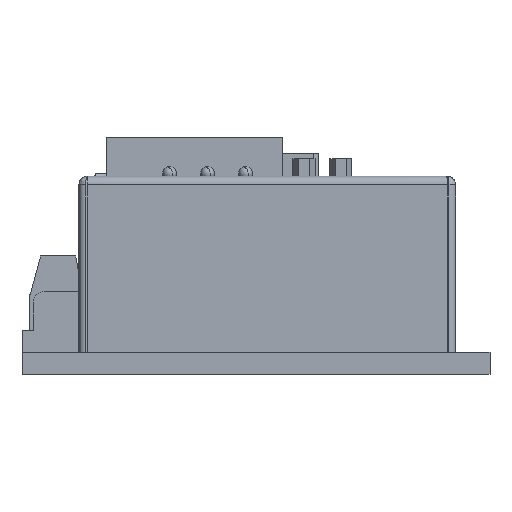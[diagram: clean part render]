
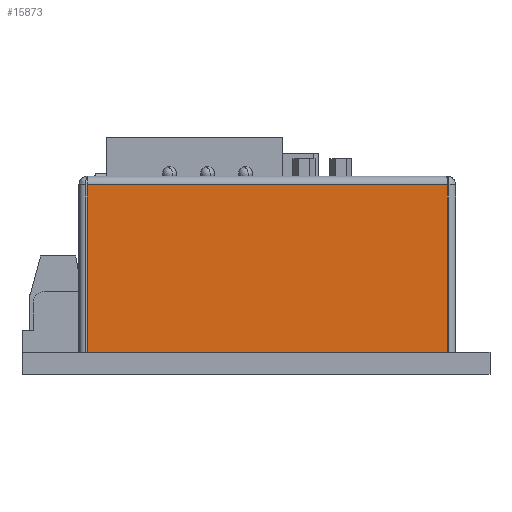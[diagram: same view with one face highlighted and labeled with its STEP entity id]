
A CAD part, front view. The second image highlights one B-rep face of the part: STEP entity #15873.
In plain terms, the highlighted planar face has unit normal (0, -1, 0).
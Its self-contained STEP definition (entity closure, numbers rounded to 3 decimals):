
#217 = PLANE ( 'NONE',  #7623 ) ;
#2004 = DIRECTION ( 'NONE',  ( 0., 0., -1. ) ) ;
#2013 = VECTOR ( 'NONE', #7461, 1000. ) ;
#2486 = CARTESIAN_POINT ( 'NONE',  ( 0., -30.25, -1.6 ) ) ;
#2648 = CARTESIAN_POINT ( 'NONE',  ( -32.693, -30.25, -1.6 ) ) ;
#3048 = VERTEX_POINT ( 'NONE', #20169 ) ;
#3119 = LINE ( 'NONE', #2486, #15707 ) ;
#3680 = CARTESIAN_POINT ( 'NONE',  ( 0., -30.25, 0. ) ) ;
#4807 = EDGE_LOOP ( 'NONE', ( #9589, #17160, #13936, #22775 ) ) ;
#5591 = EDGE_CURVE ( 'NONE', #3048, #9370, #21112, .T. ) ;
#6895 = LINE ( 'NONE', #17614, #20651 ) ;
#7461 = DIRECTION ( 'NONE',  ( 0., 0., 1. ) ) ;
#7623 = AXIS2_PLACEMENT_3D ( 'NONE', #3680, #12730, #2004 ) ;
#9370 = VERTEX_POINT ( 'NONE', #10670 ) ;
#9372 = LINE ( 'NONE', #11154, #14147 ) ;
#9589 = ORIENTED_EDGE ( 'NONE', *, *, #9898, .F. ) ;
#9898 = EDGE_CURVE ( 'NONE', #10500, #22723, #6895, .T. ) ;
#10500 = VERTEX_POINT ( 'NONE', #16224 ) ;
#10670 = CARTESIAN_POINT ( 'NONE',  ( 32.693, -30.25, -1.6 ) ) ;
#11154 = CARTESIAN_POINT ( 'NONE',  ( -34.2, -30.25, -32. ) ) ;
#12262 = DIRECTION ( 'NONE',  ( 0., 0., 1. ) ) ;
#12730 = DIRECTION ( 'NONE',  ( 0., -1., 0. ) ) ;
#13936 = ORIENTED_EDGE ( 'NONE', *, *, #5591, .T. ) ;
#14147 = VECTOR ( 'NONE', #18298, 1000. ) ;
#15589 = EDGE_CURVE ( 'NONE', #9370, #22723, #3119, .T. ) ;
#15707 = VECTOR ( 'NONE', #22267, 1000. ) ;
#15873 = ADVANCED_FACE ( 'NONE', ( #19375 ), #217, .T. ) ;
#16224 = CARTESIAN_POINT ( 'NONE',  ( -32.693, -30.25, -32. ) ) ;
#17160 = ORIENTED_EDGE ( 'NONE', *, *, #18827, .F. ) ;
#17614 = CARTESIAN_POINT ( 'NONE',  ( -32.693, -30.25, -0.8 ) ) ;
#18197 = CARTESIAN_POINT ( 'NONE',  ( 32.693, -30.25, 0. ) ) ;
#18298 = DIRECTION ( 'NONE',  ( -1., 0., 0. ) ) ;
#18827 = EDGE_CURVE ( 'NONE', #3048, #10500, #9372, .T. ) ;
#19375 = FACE_OUTER_BOUND ( 'NONE', #4807, .T. ) ;
#20169 = CARTESIAN_POINT ( 'NONE',  ( 32.693, -30.25, -32. ) ) ;
#20651 = VECTOR ( 'NONE', #12262, 1000. ) ;
#21112 = LINE ( 'NONE', #18197, #2013 ) ;
#22267 = DIRECTION ( 'NONE',  ( -1., 0., 0. ) ) ;
#22723 = VERTEX_POINT ( 'NONE', #2648 ) ;
#22775 = ORIENTED_EDGE ( 'NONE', *, *, #15589, .T. ) ;
